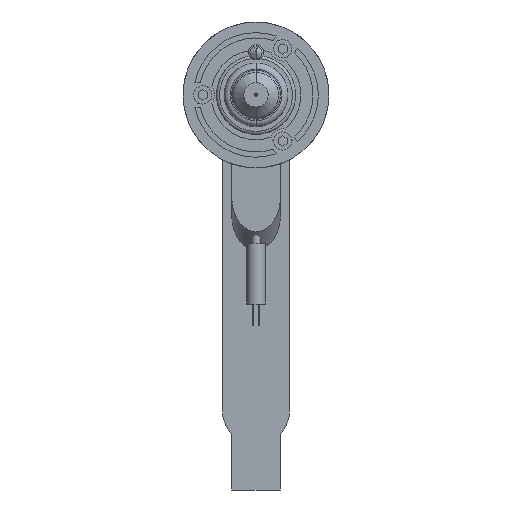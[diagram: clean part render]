
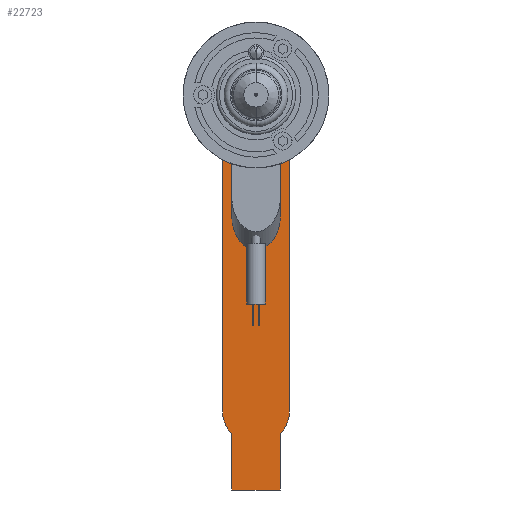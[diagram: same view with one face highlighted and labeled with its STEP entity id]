
A CAD part, front view. The second image highlights one B-rep face of the part: STEP entity #22723.
In plain terms, the highlighted planar face has unit normal (0, -1, 0).
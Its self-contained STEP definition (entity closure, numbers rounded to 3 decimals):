
#22039=CARTESIAN_POINT('',(0.,-8.,0.));
#22040=DIRECTION('',(0.,1.,0.));
#22041=DIRECTION('',(0.889,0.,0.458));
#22042=AXIS2_PLACEMENT_3D('',#22039,#22040,#22041);
#22066=CARTESIAN_POINT('',(39.686,-8.,-8.));
#22067=CARTESIAN_POINT('',(41.02,-8.,-8.));
#22068=CARTESIAN_POINT('',(43.9,-8.,-7.659));
#22069=CARTESIAN_POINT('',(47.926,-8.,-5.824));
#22070=CARTESIAN_POINT('',(50.084,-8.,-3.458));
#22071=CARTESIAN_POINT('',(50.881,-8.,-1.445));
#22072=CARTESIAN_POINT('',(51.059,-8.,0.));
#22073=CARTESIAN_POINT('',(50.881,-8.,1.445));
#22074=CARTESIAN_POINT('',(50.084,-8.,3.458));
#22075=CARTESIAN_POINT('',(47.926,-8.,5.824));
#22076=CARTESIAN_POINT('',(43.9,-8.,7.659));
#22077=CARTESIAN_POINT('',(41.02,-8.,8.));
#22078=CARTESIAN_POINT('',(39.686,-8.,8.));
#22080=DIRECTION('',(1.,0.,0.));
#22081=VECTOR('',#22080,82.669);
#22082=CARTESIAN_POINT('',(21.331,-8.,11.));
#22083=LINE('',#22082,#22081);
#22084=CARTESIAN_POINT('',(104.,-8.,0.));
#22085=DIRECTION('',(0.,1.,0.));
#22086=DIRECTION('',(0.,0.,1.));
#22087=AXIS2_PLACEMENT_3D('',#22084,#22085,#22086);
#22089=DIRECTION('',(1.,0.,0.));
#22090=VECTOR('',#22089,18.45);
#22091=CARTESIAN_POINT('',(111.55,-8.,8.));
#22092=LINE('',#22091,#22090);
#22093=DIRECTION('',(0.,0.,-1.));
#22094=VECTOR('',#22093,16.);
#22095=CARTESIAN_POINT('',(130.,-8.,8.));
#22096=LINE('',#22095,#22094);
#22097=DIRECTION('',(-1.,0.,0.));
#22098=VECTOR('',#22097,18.45);
#22099=CARTESIAN_POINT('',(130.,-8.,-8.));
#22100=LINE('',#22099,#22098);
#22101=CARTESIAN_POINT('',(104.,-8.,0.));
#22102=DIRECTION('',(0.,1.,0.));
#22103=DIRECTION('',(0.686,0.,-0.727));
#22104=AXIS2_PLACEMENT_3D('',#22101,#22102,#22103);
#22106=DIRECTION('',(-1.,0.,0.));
#22107=VECTOR('',#22106,82.669);
#22108=CARTESIAN_POINT('',(104.,-8.,-11.));
#22109=LINE('',#22108,#22107);
#22110=DIRECTION('',(1.,0.,0.));
#22111=VECTOR('',#22110,17.059);
#22112=CARTESIAN_POINT('',(22.627,-8.,8.));
#22113=LINE('',#22112,#22111);
#22156=DIRECTION('',(1.,0.,0.));
#22157=VECTOR('',#22156,17.059);
#22158=CARTESIAN_POINT('',(22.627,-8.,-8.));
#22159=LINE('',#22158,#22157);
#22168=CARTESIAN_POINT('',(0.,-8.,0.));
#22169=DIRECTION('',(0.,1.,0.));
#22170=DIRECTION('',(0.943,0.,-0.333));
#22171=AXIS2_PLACEMENT_3D('',#22168,#22169,#22170);
#22572=CARTESIAN_POINT('',(130.,-8.,8.));
#22573=CARTESIAN_POINT('',(130.,-8.,-8.));
#22574=VERTEX_POINT('',#22572);
#22575=VERTEX_POINT('',#22573);
#22615=CARTESIAN_POINT('',(104.,-8.,-11.));
#22617=VERTEX_POINT('',#22615);
#22619=CARTESIAN_POINT('',(104.,-8.,11.));
#22621=VERTEX_POINT('',#22619);
#22622=CARTESIAN_POINT('',(22.627,-8.,-8.));
#22623=CARTESIAN_POINT('',(21.331,-8.,-11.));
#22624=VERTEX_POINT('',#22622);
#22625=VERTEX_POINT('',#22623);
#22628=CARTESIAN_POINT('',(21.331,-8.,11.));
#22629=CARTESIAN_POINT('',(22.627,-8.,8.));
#22630=VERTEX_POINT('',#22628);
#22631=VERTEX_POINT('',#22629);
#22634=CARTESIAN_POINT('',(39.686,-8.,8.));
#22635=VERTEX_POINT('',#22634);
#22636=CARTESIAN_POINT('',(39.686,-8.,-8.));
#22637=VERTEX_POINT('',#22636);
#22638=CARTESIAN_POINT('',(111.55,-8.,8.));
#22640=VERTEX_POINT('',#22638);
#22642=CARTESIAN_POINT('',(111.55,-8.,-8.));
#22644=VERTEX_POINT('',#22642);
#22693=CARTESIAN_POINT('',(0.,-8.,0.));
#22694=DIRECTION('',(0.,1.,0.));
#22695=DIRECTION('',(1.,0.,0.));
#22696=AXIS2_PLACEMENT_3D('',#22693,#22694,#22695);
#22697=PLANE('',#22696);
#22699=ORIENTED_EDGE('',*,*,#22698,.T.);
#22701=ORIENTED_EDGE('',*,*,#22700,.F.);
#22702=ORIENTED_EDGE('',*,*,#22675,.F.);
#22704=ORIENTED_EDGE('',*,*,#22703,.T.);
#22706=ORIENTED_EDGE('',*,*,#22705,.T.);
#22708=ORIENTED_EDGE('',*,*,#22707,.T.);
#22710=ORIENTED_EDGE('',*,*,#22709,.T.);
#22712=ORIENTED_EDGE('',*,*,#22711,.T.);
#22714=ORIENTED_EDGE('',*,*,#22713,.T.);
#22716=ORIENTED_EDGE('',*,*,#22715,.T.);
#22718=ORIENTED_EDGE('',*,*,#22717,.F.);
#22720=ORIENTED_EDGE('',*,*,#22719,.T.);
#22721=EDGE_LOOP('',(#22699,#22701,#22702,#22704,#22706,#22708,#22710,#22712,
#22714,#22716,#22718,#22720));
#22722=FACE_OUTER_BOUND('',#22721,.F.);
#22723=ADVANCED_FACE('',(#22722),#22697,.F.);
#22043=CIRCLE('',#22042,24.);
#22079=B_SPLINE_CURVE_WITH_KNOTS('',3,(#22066,#22067,#22068,#22069,#22070,
#22071,#22072,#22073,#22074,#22075,#22076,#22077,#22078),.UNSPECIFIED.,.F.,.F.,(
4,1,1,1,1,1,1,1,1,1,4),(0.,0.125,0.25,0.375,0.438,0.5,0.563,
0.625,0.75,0.875,1.),.UNSPECIFIED.);
#22088=CIRCLE('',#22087,11.);
#22105=CIRCLE('',#22104,11.);
#22172=CIRCLE('',#22171,24.);
#22675=EDGE_CURVE('',#22630,#22631,#22043,.T.);
#22698=EDGE_CURVE('',#22637,#22635,#22079,.T.);
#22700=EDGE_CURVE('',#22631,#22635,#22113,.T.);
#22703=EDGE_CURVE('',#22630,#22621,#22083,.T.);
#22705=EDGE_CURVE('',#22621,#22640,#22088,.T.);
#22707=EDGE_CURVE('',#22640,#22574,#22092,.T.);
#22709=EDGE_CURVE('',#22574,#22575,#22096,.T.);
#22711=EDGE_CURVE('',#22575,#22644,#22100,.T.);
#22713=EDGE_CURVE('',#22644,#22617,#22105,.T.);
#22715=EDGE_CURVE('',#22617,#22625,#22109,.T.);
#22717=EDGE_CURVE('',#22624,#22625,#22172,.T.);
#22719=EDGE_CURVE('',#22624,#22637,#22159,.T.);
